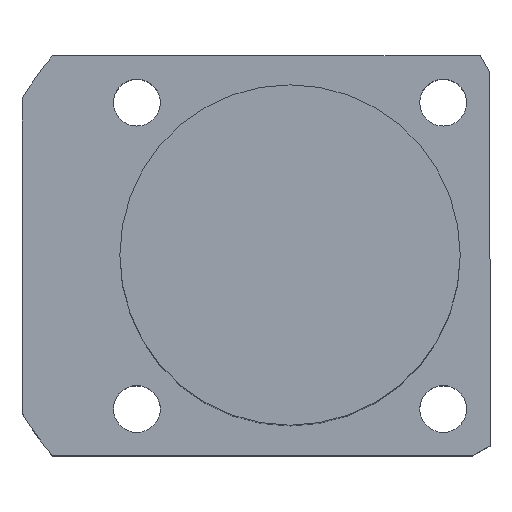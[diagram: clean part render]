
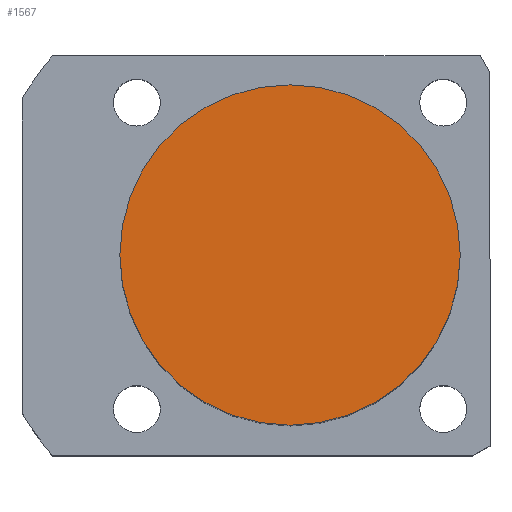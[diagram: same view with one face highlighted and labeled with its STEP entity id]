
A CAD part, top view. The second image highlights one B-rep face of the part: STEP entity #1567.
In plain terms, the highlighted planar face has unit normal (0, 0, 1).
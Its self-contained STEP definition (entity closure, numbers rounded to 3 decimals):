
#85 = ORIENTED_EDGE ( 'NONE', *, *, #497, .T. ) ;
#158 = EDGE_CURVE ( 'NONE', #1007, #397, #495, .T. ) ;
#162 = DIRECTION ( 'NONE',  ( 1., 0., 0. ) ) ;
#234 = PLANE ( 'NONE',  #825 ) ;
#237 = DIRECTION ( 'NONE',  ( 1., 0., 0. ) ) ;
#397 = VERTEX_POINT ( 'NONE', #1179 ) ;
#495 = CIRCLE ( 'NONE', #1600, 20. ) ;
#497 = EDGE_CURVE ( 'NONE', #397, #1007, #765, .T. ) ;
#521 = FACE_OUTER_BOUND ( 'NONE', #633, .T. ) ;
#526 = CARTESIAN_POINT ( 'NONE',  ( 0., 0., 66.5 ) ) ;
#633 = EDGE_LOOP ( 'NONE', ( #898, #85 ) ) ;
#765 = CIRCLE ( 'NONE', #1538, 20. ) ;
#782 = CARTESIAN_POINT ( 'NONE',  ( 0., 0., 66.5 ) ) ;
#825 = AXIS2_PLACEMENT_3D ( 'NONE', #782, #1754, #237 ) ;
#898 = ORIENTED_EDGE ( 'NONE', *, *, #158, .T. ) ;
#1007 = VERTEX_POINT ( 'NONE', #1389 ) ;
#1179 = CARTESIAN_POINT ( 'NONE',  ( 20., 0., 66.5 ) ) ;
#1250 = CARTESIAN_POINT ( 'NONE',  ( 0., 0., 66.5 ) ) ;
#1254 = DIRECTION ( 'NONE',  ( 0., 0., 1. ) ) ;
#1389 = CARTESIAN_POINT ( 'NONE',  ( -20., 0., 66.5 ) ) ;
#1538 = AXIS2_PLACEMENT_3D ( 'NONE', #526, #1630, #1767 ) ;
#1567 = ADVANCED_FACE ( 'NONE', ( #521 ), #234, .T. ) ;
#1600 = AXIS2_PLACEMENT_3D ( 'NONE', #1250, #1254, #162 ) ;
#1630 = DIRECTION ( 'NONE',  ( 0., 0., 1. ) ) ;
#1754 = DIRECTION ( 'NONE',  ( 0., 0., 1. ) ) ;
#1767 = DIRECTION ( 'NONE',  ( 1., 0., 0. ) ) ;
